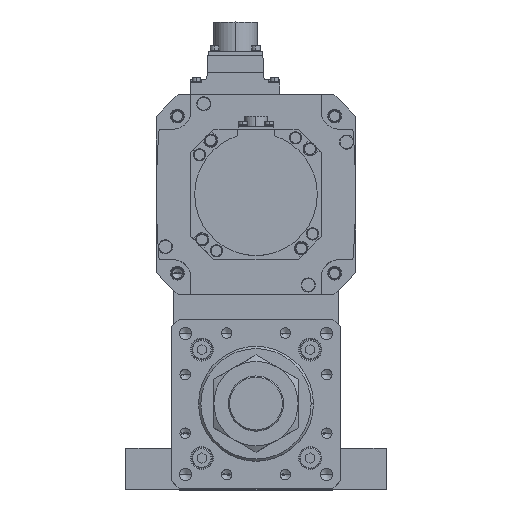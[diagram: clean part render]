
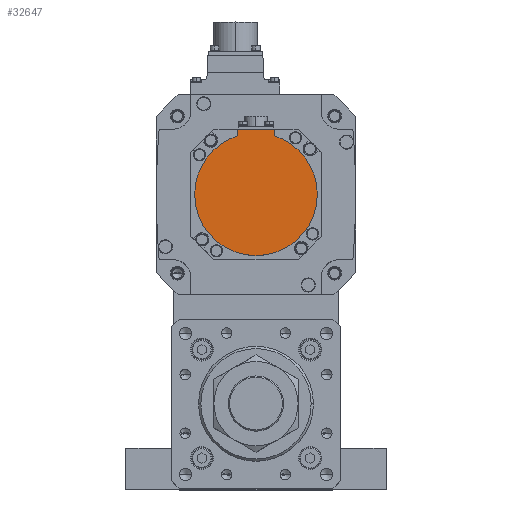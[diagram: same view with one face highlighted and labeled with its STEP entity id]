
A CAD part, top view. The second image highlights one B-rep face of the part: STEP entity #32647.
In plain terms, the highlighted planar face has unit normal (0, 0, 1) as drawn and (0, 0, -1) by its records, which use the part's own axes.
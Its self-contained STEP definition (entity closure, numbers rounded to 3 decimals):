
#1731 = VECTOR ( 'NONE', #5850, 1000. ) ;
#2523 = CARTESIAN_POINT ( 'NONE',  ( 0., 0., -132.5 ) ) ;
#2533 = CARTESIAN_POINT ( 'NONE',  ( 0., -1.249, -132.5 ) ) ;
#3212 = CIRCLE ( 'NONE', #4445, 40. ) ;
#3590 = EDGE_LOOP ( 'NONE', ( #16295, #28490, #4037, #26886, #9211, #34856 ) ) ;
#4037 = ORIENTED_EDGE ( 'NONE', *, *, #13406, .F. ) ;
#4445 = AXIS2_PLACEMENT_3D ( 'NONE', #10498, #13375, #16106 ) ;
#5020 = VECTOR ( 'NONE', #19177, 1000. ) ;
#5196 = DIRECTION ( 'NONE',  ( 0., 1., 0. ) ) ;
#5355 = CARTESIAN_POINT ( 'NONE',  ( -40., 0., -132.5 ) ) ;
#5850 = DIRECTION ( 'NONE',  ( 0., 1., 0. ) ) ;
#7228 = EDGE_CURVE ( 'NONE', #18776, #33132, #35012, .T. ) ;
#7273 = CIRCLE ( 'NONE', #27346, 40. ) ;
#9002 = FACE_OUTER_BOUND ( 'NONE', #3590, .T. ) ;
#9036 = CIRCLE ( 'NONE', #33203, 40. ) ;
#9211 = ORIENTED_EDGE ( 'NONE', *, *, #7228, .F. ) ;
#9436 = VERTEX_POINT ( 'NONE', #30029 ) ;
#10498 = CARTESIAN_POINT ( 'NONE',  ( 0., 0., -132.5 ) ) ;
#10864 = DIRECTION ( 'NONE',  ( 0., 0., 1. ) ) ;
#12830 = CARTESIAN_POINT ( 'NONE',  ( 40., 0., -132.5 ) ) ;
#13375 = DIRECTION ( 'NONE',  ( 0., 0., 1. ) ) ;
#13406 = EDGE_CURVE ( 'NONE', #27053, #15504, #7273, .T. ) ;
#14570 = EDGE_CURVE ( 'NONE', #18776, #9436, #34965, .T. ) ;
#15504 = VERTEX_POINT ( 'NONE', #5355 ) ;
#16106 = DIRECTION ( 'NONE',  ( 1., 0., 0. ) ) ;
#16295 = ORIENTED_EDGE ( 'NONE', *, *, #19069, .T. ) ;
#16303 = CARTESIAN_POINT ( 'NONE',  ( 12., -38.158, -132.5 ) ) ;
#16692 = DIRECTION ( 'NONE',  ( 1., 0., 0. ) ) ;
#17494 = VECTOR ( 'NONE', #5196, 1000. ) ;
#18776 = VERTEX_POINT ( 'NONE', #20114 ) ;
#19069 = EDGE_CURVE ( 'NONE', #9436, #30844, #35146, .T. ) ;
#19177 = DIRECTION ( 'NONE',  ( -1., 0., 0. ) ) ;
#20114 = CARTESIAN_POINT ( 'NONE',  ( 12., -42.5, -132.5 ) ) ;
#20239 = DIRECTION ( 'NONE',  ( 0., 0., 1. ) ) ;
#21449 = DIRECTION ( 'NONE',  ( 1., 0., 0. ) ) ;
#22995 = DIRECTION ( 'NONE',  ( 1., 0., 0. ) ) ;
#23958 = DIRECTION ( 'NONE',  ( 0., 0., 1. ) ) ;
#24311 = EDGE_CURVE ( 'NONE', #33132, #27053, #9036, .T. ) ;
#25189 = CARTESIAN_POINT ( 'NONE',  ( -12., -40.329, -132.5 ) ) ;
#26886 = ORIENTED_EDGE ( 'NONE', *, *, #24311, .F. ) ;
#27053 = VERTEX_POINT ( 'NONE', #12830 ) ;
#27153 = CARTESIAN_POINT ( 'NONE',  ( 12., -1.249, -132.5 ) ) ;
#27162 = PLANE ( 'NONE',  #33410 ) ;
#27346 = AXIS2_PLACEMENT_3D ( 'NONE', #2523, #23958, #21449 ) ;
#28490 = ORIENTED_EDGE ( 'NONE', *, *, #29113, .F. ) ;
#29113 = EDGE_CURVE ( 'NONE', #15504, #30844, #3212, .T. ) ;
#29223 = CARTESIAN_POINT ( 'NONE',  ( -12., -38.158, -132.5 ) ) ;
#30029 = CARTESIAN_POINT ( 'NONE',  ( -12., -42.5, -132.5 ) ) ;
#30279 = CARTESIAN_POINT ( 'NONE',  ( 0., -42.5, -132.5 ) ) ;
#30844 = VERTEX_POINT ( 'NONE', #29223 ) ;
#32647 = ADVANCED_FACE ( 'NONE', ( #9002 ), #27162, .F. ) ;
#33132 = VERTEX_POINT ( 'NONE', #16303 ) ;
#33203 = AXIS2_PLACEMENT_3D ( 'NONE', #33855, #20239, #22995 ) ;
#33410 = AXIS2_PLACEMENT_3D ( 'NONE', #2533, #10864, #16692 ) ;
#33855 = CARTESIAN_POINT ( 'NONE',  ( 0., 0., -132.5 ) ) ;
#34856 = ORIENTED_EDGE ( 'NONE', *, *, #14570, .T. ) ;
#34965 = LINE ( 'NONE', #30279, #5020 ) ;
#35012 = LINE ( 'NONE', #27153, #17494 ) ;
#35146 = LINE ( 'NONE', #25189, #1731 ) ;
